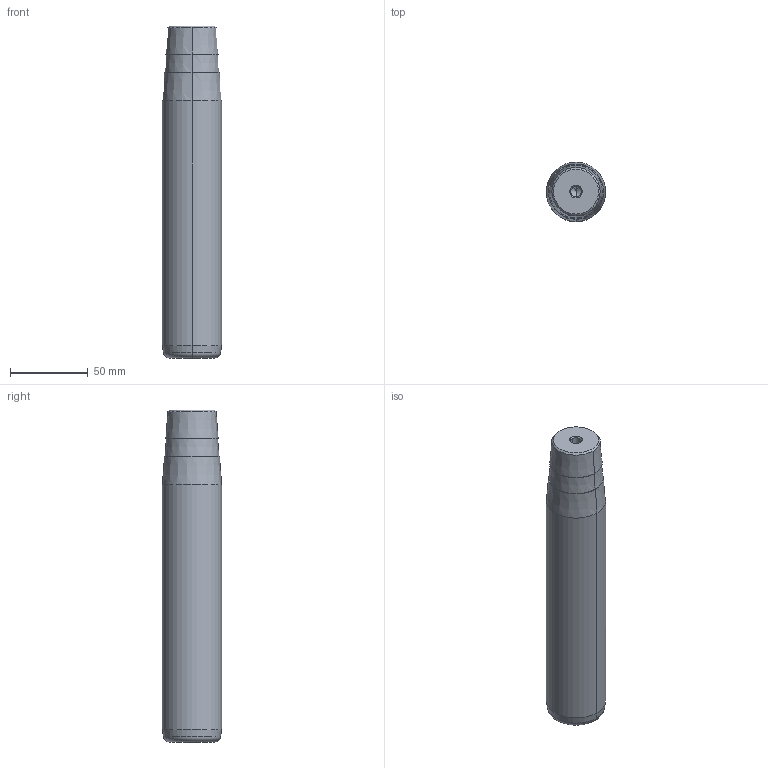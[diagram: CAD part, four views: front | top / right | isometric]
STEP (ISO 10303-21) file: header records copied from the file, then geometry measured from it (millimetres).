
FILE_DESCRIPTION(('CATIA V5 STEP Exchange'),'2;1');
FILE_NAME('C:\Users\Utente\Desktop\IO LAVORO\3D X SITO CF\X SITO\722\722-38x180x213.stp','2021-01-08T16:04:14+00:00',('none'),('none'),'CATIA Version 5 Release 20 GA (IN-10)','CATIA V5 STEP AP203','none');
FILE_SCHEMA(('CONFIG_CONTROL_DESIGN'));
Length unit declared in the file: millimetre
Products named in the file (1): 722-38x180x213
Bounding box: 38 x 38 x 213 mm (x, y, z)
Volume: 228818.3 mm3; surface area: 27555.5 mm2
Topology: 1 solids, 1 shells, 32 faces, 98 edges, 66 vertices
Faces by surface type: cone 22, cylinder 6, plane 2, torus 2
Entity records: 1166 total; most frequent: CARTESIAN_POINT 279, ORIENTED_EDGE 188, DIRECTION 148, EDGE_CURVE 94, AXIS2_PLACEMENT_3D 89, VERTEX_POINT 66, CIRCLE 56, EDGE_LOOP 34
